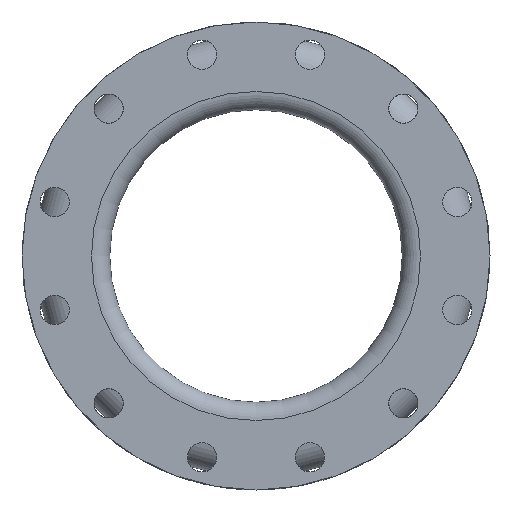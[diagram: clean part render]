
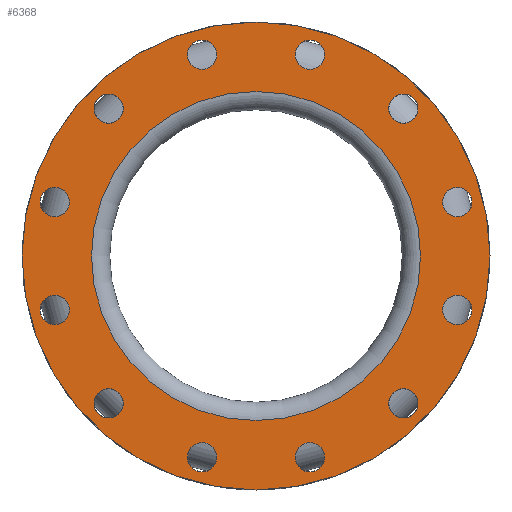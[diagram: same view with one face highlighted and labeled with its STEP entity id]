
A CAD part, left-side view. The second image highlights one B-rep face of the part: STEP entity #6368.
In plain terms, the highlighted planar face has unit normal (-1, 0, 0).
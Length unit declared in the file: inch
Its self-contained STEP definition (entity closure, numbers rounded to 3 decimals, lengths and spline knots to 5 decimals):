
#101=FACE_BOUND('',#1125,.T.);
#102=FACE_BOUND('',#1126,.T.);
#103=FACE_BOUND('',#1127,.T.);
#104=FACE_BOUND('',#1128,.T.);
#105=FACE_BOUND('',#1129,.T.);
#106=FACE_BOUND('',#1130,.T.);
#107=FACE_BOUND('',#1131,.T.);
#108=FACE_BOUND('',#1132,.T.);
#109=FACE_BOUND('',#1133,.T.);
#110=FACE_BOUND('',#1134,.T.);
#111=FACE_BOUND('',#1135,.T.);
#112=FACE_BOUND('',#1136,.T.);
#113=FACE_BOUND('',#1137,.T.);
#693=FACE_OUTER_BOUND('',#1124,.T.);
#1124=EDGE_LOOP('',(#4892));
#1125=EDGE_LOOP('',(#4893));
#1126=EDGE_LOOP('',(#4894));
#1127=EDGE_LOOP('',(#4895));
#1128=EDGE_LOOP('',(#4896));
#1129=EDGE_LOOP('',(#4897));
#1130=EDGE_LOOP('',(#4898));
#1131=EDGE_LOOP('',(#4899));
#1132=EDGE_LOOP('',(#4900));
#1133=EDGE_LOOP('',(#4901));
#1134=EDGE_LOOP('',(#4902));
#1135=EDGE_LOOP('',(#4903));
#1136=EDGE_LOOP('',(#4904));
#1137=EDGE_LOOP('',(#4905));
#2253=CIRCLE('',#6979,0.5);
#2255=CIRCLE('',#6982,0.5);
#2257=CIRCLE('',#6985,0.5);
#2259=CIRCLE('',#6988,0.5);
#2261=CIRCLE('',#6991,0.5);
#2263=CIRCLE('',#6994,0.5);
#2265=CIRCLE('',#6997,0.5);
#2267=CIRCLE('',#7000,0.5);
#2269=CIRCLE('',#7003,0.5);
#2271=CIRCLE('',#7006,0.5);
#2273=CIRCLE('',#7009,0.5);
#2275=CIRCLE('',#7012,0.5);
#2283=CIRCLE('',#7027,5.625);
#2284=CIRCLE('',#7029,8.);
#2841=VERTEX_POINT('',#10591);
#2843=VERTEX_POINT('',#10596);
#2845=VERTEX_POINT('',#10601);
#2847=VERTEX_POINT('',#10606);
#2849=VERTEX_POINT('',#10611);
#2851=VERTEX_POINT('',#10616);
#2853=VERTEX_POINT('',#10621);
#2855=VERTEX_POINT('',#10626);
#2857=VERTEX_POINT('',#10631);
#2859=VERTEX_POINT('',#10636);
#2861=VERTEX_POINT('',#10641);
#2863=VERTEX_POINT('',#10646);
#2871=VERTEX_POINT('',#10669);
#2872=VERTEX_POINT('',#10672);
#3585=EDGE_CURVE('',#2841,#2841,#2253,.T.);
#3587=EDGE_CURVE('',#2843,#2843,#2255,.T.);
#3589=EDGE_CURVE('',#2845,#2845,#2257,.T.);
#3591=EDGE_CURVE('',#2847,#2847,#2259,.T.);
#3593=EDGE_CURVE('',#2849,#2849,#2261,.T.);
#3595=EDGE_CURVE('',#2851,#2851,#2263,.T.);
#3597=EDGE_CURVE('',#2853,#2853,#2265,.T.);
#3599=EDGE_CURVE('',#2855,#2855,#2267,.T.);
#3601=EDGE_CURVE('',#2857,#2857,#2269,.T.);
#3603=EDGE_CURVE('',#2859,#2859,#2271,.T.);
#3605=EDGE_CURVE('',#2861,#2861,#2273,.T.);
#3607=EDGE_CURVE('',#2863,#2863,#2275,.T.);
#3615=EDGE_CURVE('',#2871,#2871,#2283,.T.);
#3616=EDGE_CURVE('',#2872,#2872,#2284,.T.);
#4892=ORIENTED_EDGE('',*,*,#3616,.F.);
#4893=ORIENTED_EDGE('',*,*,#3615,.T.);
#4894=ORIENTED_EDGE('',*,*,#3585,.T.);
#4895=ORIENTED_EDGE('',*,*,#3587,.T.);
#4896=ORIENTED_EDGE('',*,*,#3589,.T.);
#4897=ORIENTED_EDGE('',*,*,#3591,.T.);
#4898=ORIENTED_EDGE('',*,*,#3593,.T.);
#4899=ORIENTED_EDGE('',*,*,#3595,.T.);
#4900=ORIENTED_EDGE('',*,*,#3597,.T.);
#4901=ORIENTED_EDGE('',*,*,#3599,.T.);
#4902=ORIENTED_EDGE('',*,*,#3601,.T.);
#4903=ORIENTED_EDGE('',*,*,#3603,.T.);
#4904=ORIENTED_EDGE('',*,*,#3605,.T.);
#4905=ORIENTED_EDGE('',*,*,#3607,.T.);
#5794=PLANE('',#7028);
#6368=ADVANCED_FACE('',(#693,#101,#102,#103,#104,#105,#106,#107,#108,#109,
#110,#111,#112,#113),#5794,.T.);
#6979=AXIS2_PLACEMENT_3D('',#10592,#8481,#8482);
#6982=AXIS2_PLACEMENT_3D('',#10597,#8487,#8488);
#6985=AXIS2_PLACEMENT_3D('',#10602,#8493,#8494);
#6988=AXIS2_PLACEMENT_3D('',#10607,#8499,#8500);
#6991=AXIS2_PLACEMENT_3D('',#10612,#8505,#8506);
#6994=AXIS2_PLACEMENT_3D('',#10617,#8511,#8512);
#6997=AXIS2_PLACEMENT_3D('',#10622,#8517,#8518);
#7000=AXIS2_PLACEMENT_3D('',#10627,#8523,#8524);
#7003=AXIS2_PLACEMENT_3D('',#10632,#8529,#8530);
#7006=AXIS2_PLACEMENT_3D('',#10637,#8535,#8536);
#7009=AXIS2_PLACEMENT_3D('',#10642,#8541,#8542);
#7012=AXIS2_PLACEMENT_3D('',#10647,#8547,#8548);
#7027=AXIS2_PLACEMENT_3D('',#10670,#8577,#8578);
#7028=AXIS2_PLACEMENT_3D('',#10671,#8579,#8580);
#7029=AXIS2_PLACEMENT_3D('',#10673,#8581,#8582);
#8481=DIRECTION('center_axis',(1.,0.,0.));
#8482=DIRECTION('ref_axis',(0.,-0.5,-0.866));
#8487=DIRECTION('center_axis',(1.,0.,0.));
#8488=DIRECTION('ref_axis',(0.,-0.866,-0.5));
#8493=DIRECTION('center_axis',(1.,0.,0.));
#8494=DIRECTION('ref_axis',(0.,-1.,0.));
#8499=DIRECTION('center_axis',(1.,0.,0.));
#8500=DIRECTION('ref_axis',(0.,-0.866,0.5));
#8505=DIRECTION('center_axis',(1.,0.,0.));
#8506=DIRECTION('ref_axis',(0.,-0.5,0.866));
#8511=DIRECTION('center_axis',(1.,0.,0.));
#8512=DIRECTION('ref_axis',(0.,0.,
1.));
#8517=DIRECTION('center_axis',(1.,0.,0.));
#8518=DIRECTION('ref_axis',(0.,0.5,0.866));
#8523=DIRECTION('center_axis',(1.,0.,0.));
#8524=DIRECTION('ref_axis',(0.,0.866,0.5));
#8529=DIRECTION('center_axis',(1.,0.,0.));
#8530=DIRECTION('ref_axis',(0.,1.,0.));
#8535=DIRECTION('center_axis',(1.,0.,0.));
#8536=DIRECTION('ref_axis',(0.,0.866,-0.5));
#8541=DIRECTION('center_axis',(1.,0.,0.));
#8542=DIRECTION('ref_axis',(0.,0.5,-0.866));
#8547=DIRECTION('center_axis',(1.,0.,0.));
#8548=DIRECTION('ref_axis',(0.,0.,-1.));
#8577=DIRECTION('center_axis',(1.,0.,0.));
#8578=DIRECTION('ref_axis',(0.,0.,-1.));
#8579=DIRECTION('center_axis',(-1.,0.,0.));
#8580=DIRECTION('ref_axis',(0.,0.,1.));
#8581=DIRECTION('center_axis',(1.,0.,0.));
#8582=DIRECTION('ref_axis',(0.,0.,-1.));
#10591=CARTESIAN_POINT('',(-4.,5.28814,-4.60512));
#10592=CARTESIAN_POINT('Origin',(-4.,5.03814,-5.03814));
#10596=CARTESIAN_POINT('',(-4.,2.2771,-6.63222));
#10597=CARTESIAN_POINT('Origin',(-4.,1.84409,-6.88222));
#10601=CARTESIAN_POINT('',(-4.,-1.34409,-6.88222));
#10602=CARTESIAN_POINT('Origin',(-4.,-1.84409,-6.88222));
#10606=CARTESIAN_POINT('',(-4.,-4.60512,-5.28814));
#10607=CARTESIAN_POINT('Origin',(-4.,-5.03814,-5.03814));
#10611=CARTESIAN_POINT('',(-4.,-6.63222,-2.2771));
#10612=CARTESIAN_POINT('Origin',(-4.,-6.88222,-1.84409));
#10616=CARTESIAN_POINT('',(-4.,-6.88222,1.34409));
#10617=CARTESIAN_POINT('Origin',(-4.,-6.88222,1.84409));
#10621=CARTESIAN_POINT('',(-4.,-5.28814,4.60512));
#10622=CARTESIAN_POINT('Origin',(-4.,-5.03814,5.03814));
#10626=CARTESIAN_POINT('',(-4.,-2.2771,6.63222));
#10627=CARTESIAN_POINT('Origin',(-4.,-1.84409,6.88222));
#10631=CARTESIAN_POINT('',(-4.,1.34409,6.88222));
#10632=CARTESIAN_POINT('Origin',(-4.,1.84409,6.88222));
#10636=CARTESIAN_POINT('',(-4.,4.60512,5.28814));
#10637=CARTESIAN_POINT('Origin',(-4.,5.03814,5.03814));
#10641=CARTESIAN_POINT('',(-4.,6.63222,2.2771));
#10642=CARTESIAN_POINT('Origin',(-4.,6.88222,1.84409));
#10646=CARTESIAN_POINT('',(-4.,6.88222,-1.34409));
#10647=CARTESIAN_POINT('Origin',(-4.,6.88222,-1.84409));
#10669=CARTESIAN_POINT('',(-4.,5.625,0.));
#10670=CARTESIAN_POINT('Origin',(-4.,0.,0.));
#10671=CARTESIAN_POINT('Origin',(-4.,8.,0.));
#10672=CARTESIAN_POINT('',(-4.,8.,0.));
#10673=CARTESIAN_POINT('Origin',(-4.,0.,0.));
